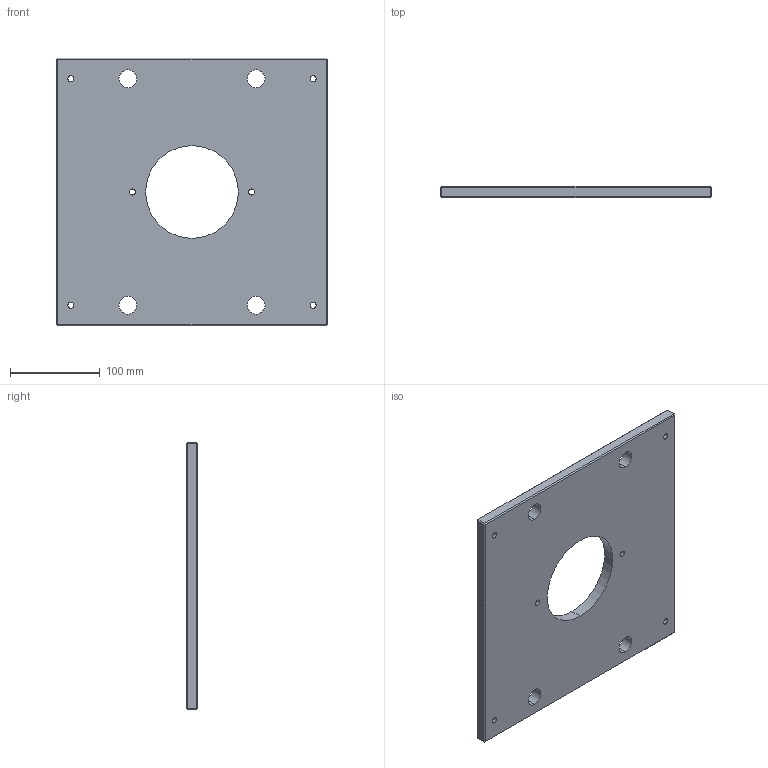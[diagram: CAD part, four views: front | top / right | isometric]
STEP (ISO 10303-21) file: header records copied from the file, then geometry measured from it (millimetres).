
FILE_DESCRIPTION (( 'STEP AP214' ), '1' );
FILE_NAME ('ME-0619-CH-1212.STEP', '2020-02-12T09:30:29', ( '' ), ( '' ), 'SwSTEP 2.0', 'SolidWorks 2018', '' );
FILE_SCHEMA (( 'AUTOMOTIVE_DESIGN' ));
Length unit declared in the file: inch
Products named in the file (1): ME-0619-CH-1212
Bounding box: 301.62 x 12.7 x 298.45 mm (x, y, z)
Volume: 1015351 mm3; surface area: 182583.1 mm2
Topology: 1 solids, 1 shells, 60 faces, 138 edges, 80 vertices
Faces by surface type: plane 26, cylinder 22, cone 12
Entity records: 1754 total; most frequent: DIRECTION 316, CARTESIAN_POINT 279, ORIENTED_EDGE 276, EDGE_CURVE 138, AXIS2_PLACEMENT_3D 117, LINE 82, VECTOR 82, EDGE_LOOP 82
